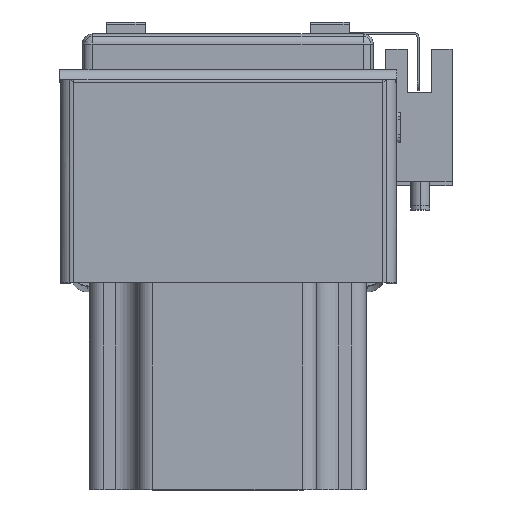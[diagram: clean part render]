
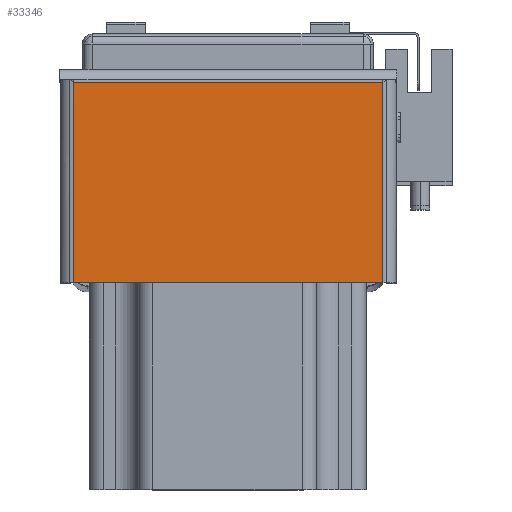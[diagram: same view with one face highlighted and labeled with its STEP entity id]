
A CAD part, top view. The second image highlights one B-rep face of the part: STEP entity #33346.
In plain terms, the highlighted planar face has unit normal (0, 0, 1) as drawn and (1, 0, 0) by its records, which use the part's own axes.
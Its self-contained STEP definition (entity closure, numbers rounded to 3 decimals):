
#3763 = CARTESIAN_POINT ( 'NONE',  ( 2., 41.263, 31.863 ) ) ;
#3773 = CARTESIAN_POINT ( 'NONE',  ( 2., 0., -31.863 ) ) ;
#3803 = CARTESIAN_POINT ( 'NONE',  ( 2., 41.263, -31.863 ) ) ;
#3842 = CARTESIAN_POINT ( 'NONE',  ( 2., 0., 31.863 ) ) ;
#8153 = EDGE_CURVE ( 'NONE', #17113, #17084, #34427, .T. ) ;
#8212 = EDGE_CURVE ( 'NONE', #17088, #17121, #34607, .T. ) ;
#8253 = EDGE_CURVE ( 'NONE', #17121, #17084, #34646, .T. ) ;
#8256 = EDGE_CURVE ( 'NONE', #17113, #17088, #34627, .T. ) ;
#10698 = ORIENTED_EDGE ( 'NONE', *, *, #8153, .F. ) ;
#10701 = ORIENTED_EDGE ( 'NONE', *, *, #8256, .T. ) ;
#10724 = ORIENTED_EDGE ( 'NONE', *, *, #8253, .T. ) ;
#10737 = ORIENTED_EDGE ( 'NONE', *, *, #8212, .T. ) ;
#12650 = FACE_OUTER_BOUND ( 'NONE', #31451, .T. ) ;
#17084 = VERTEX_POINT ( 'NONE', #3773 ) ;
#17088 = VERTEX_POINT ( 'NONE', #3763 ) ;
#17113 = VERTEX_POINT ( 'NONE', #3803 ) ;
#17121 = VERTEX_POINT ( 'NONE', #3842 ) ;
#17529 = DIRECTION ( 'NONE',  ( 0., -1., 0. ) ) ;
#17545 = CARTESIAN_POINT ( 'NONE',  ( 2., 42., -31.863 ) ) ;
#17711 = CARTESIAN_POINT ( 'NONE',  ( 2., 42., 31.863 ) ) ;
#17725 = DIRECTION ( 'NONE',  ( 0., -1., 0. ) ) ;
#17783 = CARTESIAN_POINT ( 'NONE',  ( 2., 0., -32.6 ) ) ;
#17786 = DIRECTION ( 'NONE',  ( 0., 0., -1. ) ) ;
#17818 = CARTESIAN_POINT ( 'NONE',  ( 2., 41.263, -31.863 ) ) ;
#17825 = DIRECTION ( 'NONE',  ( 0., 0., 1. ) ) ;
#18589 = DIRECTION ( 'NONE',  ( -1., 0., 0. ) ) ;
#18591 = DIRECTION ( 'NONE',  ( 0., 0., 1. ) ) ;
#18613 = CARTESIAN_POINT ( 'NONE',  ( 2., 42., -32.6 ) ) ;
#18624 = PLANE ( 'NONE',  #27708 ) ;
#27708 = AXIS2_PLACEMENT_3D ( 'NONE', #18613, #18589, #18591 ) ;
#31451 = EDGE_LOOP ( 'NONE', ( #10701, #10737, #10724, #10698 ) ) ;
#33346 = ADVANCED_FACE ( 'NONE', ( #12650 ), #18624, .F. ) ;
#34427 = LINE ( 'NONE', #17545, #34464 ) ;
#34464 = VECTOR ( 'NONE', #17529, 1000. ) ;
#34577 = VECTOR ( 'NONE', #17725, 1000. ) ;
#34607 = LINE ( 'NONE', #17711, #34577 ) ;
#34627 = LINE ( 'NONE', #17818, #34630 ) ;
#34630 = VECTOR ( 'NONE', #17825, 1000. ) ;
#34646 = LINE ( 'NONE', #17783, #34649 ) ;
#34649 = VECTOR ( 'NONE', #17786, 1000. ) ;
